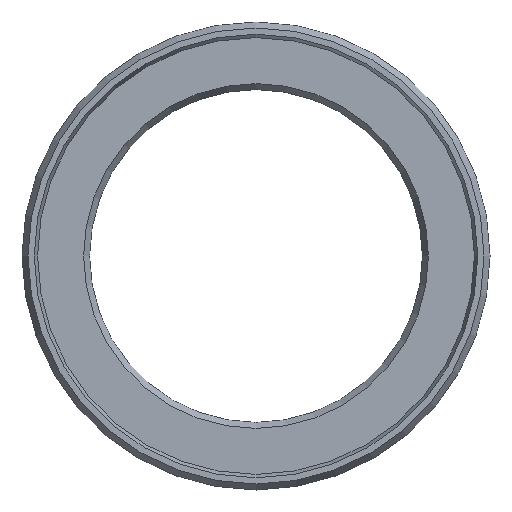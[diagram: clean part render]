
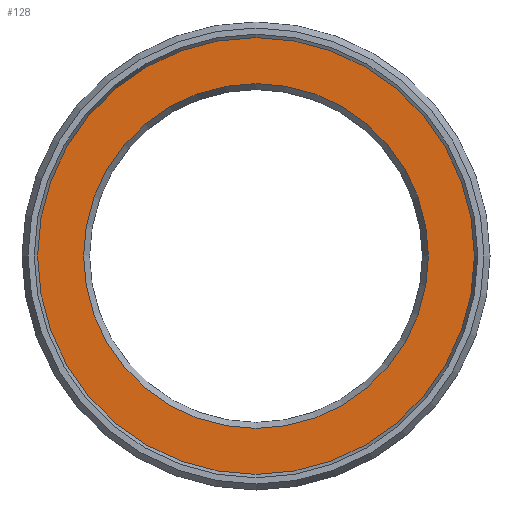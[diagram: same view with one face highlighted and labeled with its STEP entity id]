
A CAD part, left-side view. The second image highlights one B-rep face of the part: STEP entity #128.
In plain terms, the highlighted planar face has unit normal (-1, 0, 0).
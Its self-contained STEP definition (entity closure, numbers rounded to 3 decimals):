
#112=PLANE('',#329);
#128=ADVANCED_FACE('',(#163,#164),#112,.T.);
#163=FACE_BOUND('',#199,.T.);
#164=FACE_BOUND('',#200,.T.);
#199=EDGE_LOOP('',(#235));
#200=EDGE_LOOP('',(#236));
#235=ORIENTED_EDGE('',*,*,#276,.T.);
#236=ORIENTED_EDGE('',*,*,#275,.F.);
#257=VERTEX_POINT('',#454);
#258=VERTEX_POINT('',#457);
#275=EDGE_CURVE('',#257,#257,#293,.T.);
#276=EDGE_CURVE('',#258,#258,#294,.T.);
#293=CIRCLE('',#326,21.);
#294=CIRCLE('',#328,16.577);
#326=AXIS2_PLACEMENT_3D('',#453,#394,#395);
#328=AXIS2_PLACEMENT_3D('',#456,#398,#399);
#329=AXIS2_PLACEMENT_3D('',#458,#400,#401);
#394=DIRECTION('',(1.,0.,0.));
#395=DIRECTION('',(0.,0.,-1.));
#398=DIRECTION('',(1.,0.,0.));
#399=DIRECTION('',(0.,0.,1.));
#400=DIRECTION('',(-1.,0.,0.));
#401=DIRECTION('',(0.,0.,1.));
#453=CARTESIAN_POINT('',(0.,0.,0.));
#454=CARTESIAN_POINT('',(0.,0.,-21.));
#456=CARTESIAN_POINT('',(0.,0.,0.));
#457=CARTESIAN_POINT('',(0.,0.,16.577));
#458=CARTESIAN_POINT('',(0.,21.,0.));
